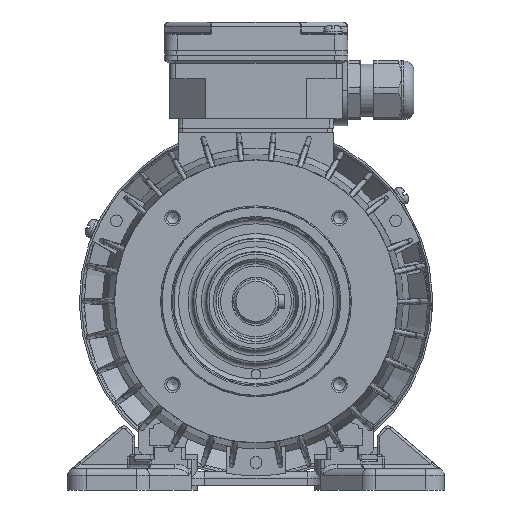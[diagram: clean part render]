
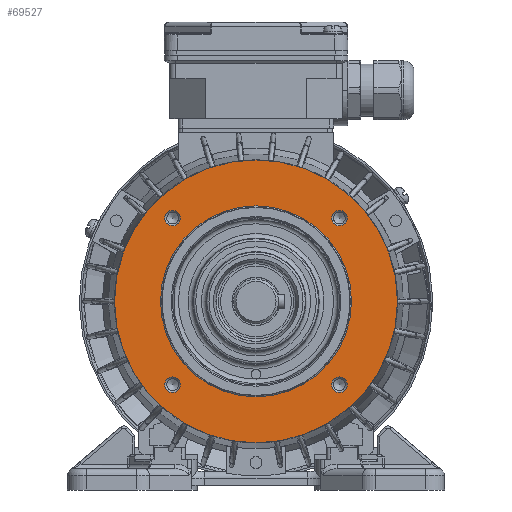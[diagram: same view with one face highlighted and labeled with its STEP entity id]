
A CAD part, left-side view. The second image highlights one B-rep face of the part: STEP entity #69527.
In plain terms, the highlighted planar face has unit normal (-1, 0, 0).
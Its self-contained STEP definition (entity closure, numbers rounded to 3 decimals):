
#20304=ORIENTED_EDGE('',*,*,#31078,.T.);
#20305=ORIENTED_EDGE('',*,*,#31079,.T.);
#20306=ORIENTED_EDGE('',*,*,#31080,.T.);
#20307=ORIENTED_EDGE('',*,*,#31081,.T.);
#20308=ORIENTED_EDGE('',*,*,#31082,.T.);
#20309=ORIENTED_EDGE('',*,*,#30891,.T.);
#30891=EDGE_CURVE('',#37069,#37069,#40479,.T.);
#31078=EDGE_CURVE('',#37185,#37185,#40523,.F.);
#31079=EDGE_CURVE('',#37186,#37186,#40524,.F.);
#31080=EDGE_CURVE('',#37187,#37187,#40525,.F.);
#31081=EDGE_CURVE('',#37188,#37188,#40526,.F.);
#31082=EDGE_CURVE('',#37189,#37189,#40527,.F.);
#37069=VERTEX_POINT('',#108444);
#37185=VERTEX_POINT('',#110447);
#37186=VERTEX_POINT('',#110449);
#37187=VERTEX_POINT('',#110451);
#37188=VERTEX_POINT('',#110453);
#37189=VERTEX_POINT('',#110455);
#40479=CIRCLE('',#73537,60.);
#40523=CIRCLE('',#73651,3.3);
#40524=CIRCLE('',#73652,3.3);
#40525=CIRCLE('',#73653,3.3);
#40526=CIRCLE('',#73654,3.3);
#40527=CIRCLE('',#73655,40.5);
#43240=EDGE_LOOP('',(#20304));
#43241=EDGE_LOOP('',(#20305));
#43242=EDGE_LOOP('',(#20306));
#43243=EDGE_LOOP('',(#20307));
#43244=EDGE_LOOP('',(#20308));
#43245=EDGE_LOOP('',(#20309));
#46577=FACE_BOUND('',#43240,.T.);
#46578=FACE_BOUND('',#43241,.T.);
#46579=FACE_BOUND('',#43242,.T.);
#46580=FACE_BOUND('',#43243,.T.);
#46581=FACE_BOUND('',#43244,.T.);
#46582=FACE_BOUND('',#43245,.T.);
#48758=PLANE('',#73650);
#69527=ADVANCED_FACE('',(#46577,#46578,#46579,#46580,#46581,#46582),#48758,
 .T.);
#73537=AXIS2_PLACEMENT_3D('',#108443,#83657,#83658);
#73650=AXIS2_PLACEMENT_3D('',#110445,#83925,#83926);
#73651=AXIS2_PLACEMENT_3D('',#110446,#83927,#83928);
#73652=AXIS2_PLACEMENT_3D('',#110448,#83929,#83930);
#73653=AXIS2_PLACEMENT_3D('',#110450,#83931,#83932);
#73654=AXIS2_PLACEMENT_3D('',#110452,#83933,#83934);
#73655=AXIS2_PLACEMENT_3D('',#110454,#83935,#83936);
#83657=DIRECTION('',(-1.,0.,0.));
#83658=DIRECTION('',(0.,0.,-1.));
#83925=DIRECTION('',(-1.,0.,0.));
#83926=DIRECTION('',(0.,0.,-1.));
#83927=DIRECTION('',(-1.,0.,0.));
#83928=DIRECTION('',(0.,0.,-1.));
#83929=DIRECTION('',(-1.,0.,0.));
#83930=DIRECTION('',(0.,0.,-1.));
#83931=DIRECTION('',(-1.,0.,0.));
#83932=DIRECTION('',(0.,0.,-1.));
#83933=DIRECTION('',(-1.,0.,0.));
#83934=DIRECTION('',(0.,0.,-1.));
#83935=DIRECTION('',(-1.,0.,0.));
#83936=DIRECTION('',(0.,0.,-1.));
#108443=CARTESIAN_POINT('',(-44.8,0.,0.));
#108444=CARTESIAN_POINT('',(-44.8,0.,-60.));
#110445=CARTESIAN_POINT('',(-44.8,0.,40.));
#110446=CARTESIAN_POINT('',(-44.8,35.355,-35.355));
#110447=CARTESIAN_POINT('',(-44.8,35.355,-38.655));
#110448=CARTESIAN_POINT('',(-44.8,-35.355,-35.355));
#110449=CARTESIAN_POINT('',(-44.8,-35.355,-38.655));
#110450=CARTESIAN_POINT('',(-44.8,-35.355,35.355));
#110451=CARTESIAN_POINT('',(-44.8,-35.355,32.055));
#110452=CARTESIAN_POINT('',(-44.8,35.355,35.355));
#110453=CARTESIAN_POINT('',(-44.8,35.355,32.055));
#110454=CARTESIAN_POINT('',(-44.8,0.,0.));
#110455=CARTESIAN_POINT('',(-44.8,0.,-40.5));
